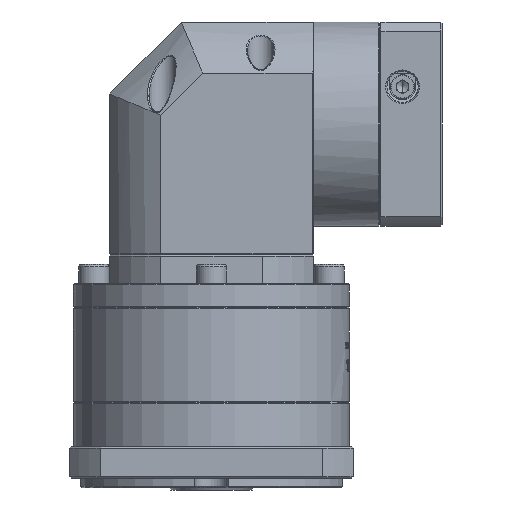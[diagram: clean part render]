
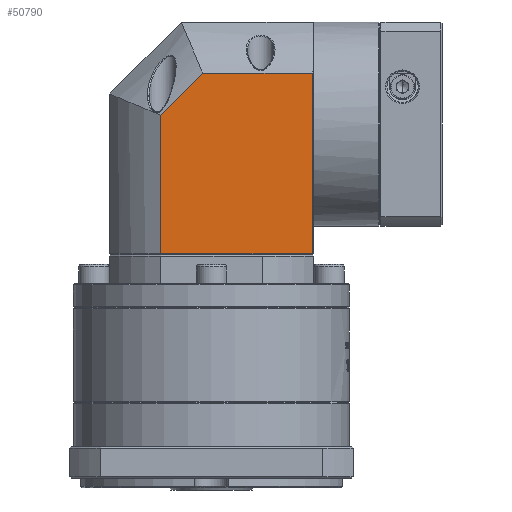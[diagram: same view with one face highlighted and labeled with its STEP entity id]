
A CAD part, front view. The second image highlights one B-rep face of the part: STEP entity #50790.
In plain terms, the highlighted planar face has unit normal (0, -1, 0).
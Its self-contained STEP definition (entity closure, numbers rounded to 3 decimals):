
#1396 = EDGE_LOOP ( 'NONE', ( #113575, #76344, #71787, #16597, #132095 ) ) ;
#5982 = CARTESIAN_POINT ( 'NONE',  ( -0.529, 87.155, -90.035 ) ) ;
#12980 = CARTESIAN_POINT ( 'NONE',  ( 62.684, 87.155, 6.465 ) ) ;
#16597 = ORIENTED_EDGE ( 'NONE', *, *, #39383, .F. ) ;
#21750 = CARTESIAN_POINT ( 'NONE',  ( 63.184, 87.155, -14.822 ) ) ;
#22541 = DIRECTION ( 'NONE',  ( 0., 1., 0. ) ) ;
#23657 = VECTOR ( 'NONE', #137075, 1000. ) ;
#28523 = EDGE_CURVE ( 'NONE', #48765, #112540, #78773, .T. ) ;
#39383 = EDGE_CURVE ( 'NONE', #122650, #103665, #99697, .T. ) ;
#43799 = DIRECTION ( 'NONE',  ( 0., 0., 1. ) ) ;
#48765 = VERTEX_POINT ( 'NONE', #5982 ) ;
#50790 = ADVANCED_FACE ( 'NONE', ( #91762 ), #127753, .F. ) ;
#58574 = LINE ( 'NONE', #84084, #116066 ) ;
#71787 = ORIENTED_EDGE ( 'NONE', *, *, #122541, .F. ) ;
#73779 = CARTESIAN_POINT ( 'NONE',  ( 63.184, 87.155, 6.465 ) ) ;
#76344 = ORIENTED_EDGE ( 'NONE', *, *, #87763, .F. ) ;
#78773 = LINE ( 'NONE', #107683, #144594 ) ;
#81921 = CARTESIAN_POINT ( 'NONE',  ( 62.684, 87.155, -90.035 ) ) ;
#83884 = VERTEX_POINT ( 'NONE', #128909 ) ;
#84011 = CARTESIAN_POINT ( 'NONE',  ( 17.002, 87.155, -14.822 ) ) ;
#84084 = CARTESIAN_POINT ( 'NONE',  ( -0.529, 87.155, 6.465 ) ) ;
#87291 = DIRECTION ( 'NONE',  ( 1., 0., 0. ) ) ;
#87763 = EDGE_CURVE ( 'NONE', #83884, #112540, #127765, .T. ) ;
#91762 = FACE_OUTER_BOUND ( 'NONE', #1396, .T. ) ;
#92212 = DIRECTION ( 'NONE',  ( 1., 0., 0. ) ) ;
#99697 = LINE ( 'NONE', #124917, #23657 ) ;
#99722 = LINE ( 'NONE', #21750, #140859 ) ;
#101875 = DIRECTION ( 'NONE',  ( -1., 0., 0. ) ) ;
#103665 = VERTEX_POINT ( 'NONE', #84011 ) ;
#107683 = CARTESIAN_POINT ( 'NONE',  ( 63.184, 87.155, -90.035 ) ) ;
#112540 = VERTEX_POINT ( 'NONE', #81921 ) ;
#113575 = ORIENTED_EDGE ( 'NONE', *, *, #28523, .T. ) ;
#116066 = VECTOR ( 'NONE', #43799, 1000. ) ;
#116514 = DIRECTION ( 'NONE',  ( 0., 0., -1. ) ) ;
#122541 = EDGE_CURVE ( 'NONE', #103665, #83884, #99722, .T. ) ;
#122650 = VERTEX_POINT ( 'NONE', #152343 ) ;
#124917 = CARTESIAN_POINT ( 'NONE',  ( -0.529, 87.155, -32.353 ) ) ;
#127753 = PLANE ( 'NONE',  #127960 ) ;
#127765 = LINE ( 'NONE', #12980, #142152 ) ;
#127960 = AXIS2_PLACEMENT_3D ( 'NONE', #73779, #22541, #101875 ) ;
#128909 = CARTESIAN_POINT ( 'NONE',  ( 62.684, 87.155, -14.822 ) ) ;
#132095 = ORIENTED_EDGE ( 'NONE', *, *, #154516, .F. ) ;
#137075 = DIRECTION ( 'NONE',  ( 0.707, 0., 0.707 ) ) ;
#140859 = VECTOR ( 'NONE', #87291, 1000. ) ;
#142152 = VECTOR ( 'NONE', #116514, 1000. ) ;
#144594 = VECTOR ( 'NONE', #92212, 1000. ) ;
#152343 = CARTESIAN_POINT ( 'NONE',  ( -0.529, 87.155, -32.353 ) ) ;
#154516 = EDGE_CURVE ( 'NONE', #48765, #122650, #58574, .T. ) ;
